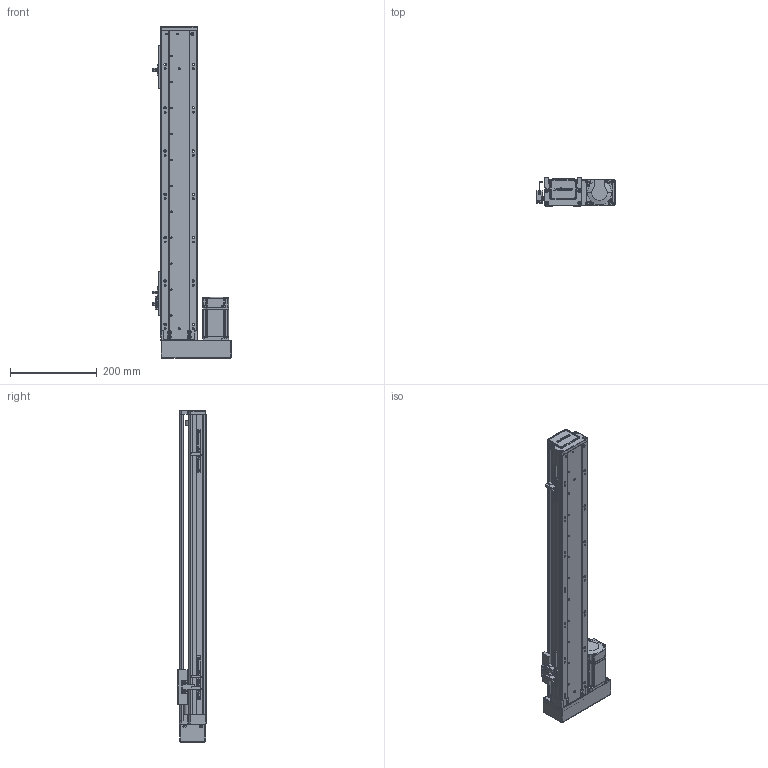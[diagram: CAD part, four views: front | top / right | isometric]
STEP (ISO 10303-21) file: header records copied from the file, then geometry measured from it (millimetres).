
FILE_DESCRIPTION (( 'STEP AP203' ), '1' );
FILE_NAME ('RY80-L1620-300-LK.SLDASM_550.step', '2021-02-20T07:16:56', ( '盈信电脑' ), ( '东莞市道滘镇水果街19号' ), 'SwSTEP 2.0', 'SolidWorks 2012', '' );
FILE_SCHEMA (( 'CONFIG_CONTROL_DESIGN' ));
Products named in the file (15): RY80-L1620-300-LK.SLDASM_550; 滅袉蝶18-24; RY80俋离覜茼え; T倰羞; RY80酘殏俋欶; 侂狟200W萇儂; 覜茼ん672; RY80酘莞萇儂假蚾啣; 1; 滅袉蝶18-10; RY80转接电机端支撑座; RY80臏賑輸; RY80-300蛌諉倰第奻裔啣-LK_550; RY80-300蛌諉倰第菁釱-LK_550; RY80綴裔啣
Assembly tree (17 placements, depth 3):
  RY80-L1620-300-LK.SLDASM_550
    RY80-300蛌諉倰第菁釱-LK_550
    RY80臏賑輸
    RY80-300蛌諉倰第奻裔啣-LK_550
    RY80綴裔啣
    滅袉蝶18-10
    RY80转接电机端支撑座
    侂狟200W萇儂
      1
    RY80酘莞萇儂假蚾啣
    RY80酘殏俋欶
    覜茼ん672  x3
    T倰羞  x2
    RY80俋离覜茼え
    滅袉蝶18-24
Bounding box: 181.7 x 65 x 767 mm (x, y, z)
Volume: 1560860.9 mm3; surface area: 611117 mm2
Topology: 16 solids, 16 shells, 2188 faces, 6029 edges, 3905 vertices
Faces by surface type: plane 1179, cylinder 808, cone 139, bspline 62
Entity records: 69691 total; most frequent: CARTESIAN_POINT 17885, ORIENTED_EDGE 10746, DIRECTION 9988, EDGE_CURVE 5373, VERTEX_POINT 3521, AXIS2_PLACEMENT_3D 3340, LINE 3308, VECTOR 3308
